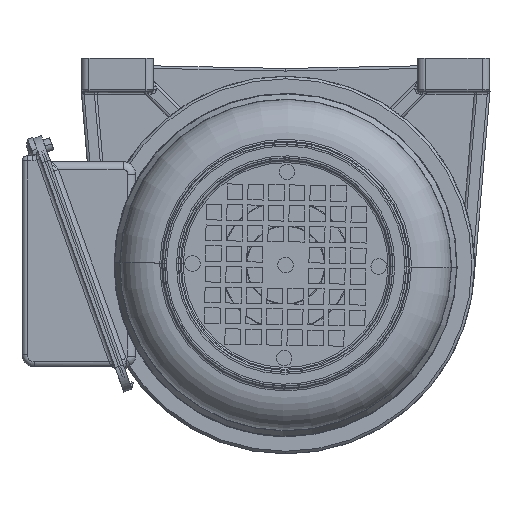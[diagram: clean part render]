
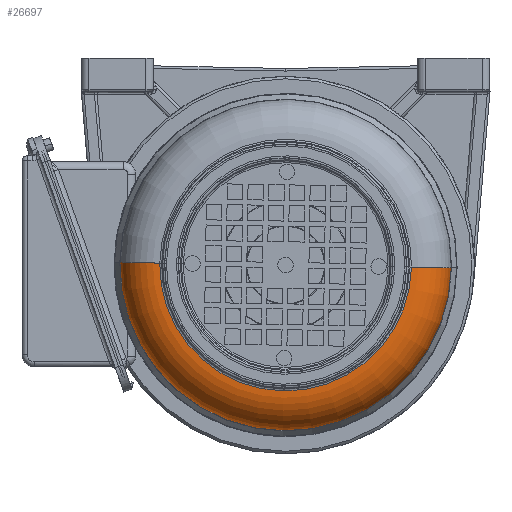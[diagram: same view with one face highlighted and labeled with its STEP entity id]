
A CAD part, front view. The second image highlights one B-rep face of the part: STEP entity #26697.
In plain terms, the highlighted toroidal (fillet/blend) face has major radius 48.673 mm and minor radius 15.331 mm.
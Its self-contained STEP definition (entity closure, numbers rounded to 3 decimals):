
#42 = DIRECTION ( 'NONE',  ( -1., 0., 0. ) ) ;
#1184 = DIRECTION ( 'NONE',  ( 0., 0., 1. ) ) ;
#1725 = CIRCLE ( 'NONE', #7220, 48.659 ) ;
#2411 = CARTESIAN_POINT ( 'NONE',  ( -15.325, 0., 48.673 ) ) ;
#2817 = EDGE_CURVE ( 'NONE', #7052, #13998, #12835, .T. ) ;
#6072 = CARTESIAN_POINT ( 'NONE',  ( 0.006, 0., 0. ) ) ;
#7052 = VERTEX_POINT ( 'NONE', #9472 ) ;
#7220 = AXIS2_PLACEMENT_3D ( 'NONE', #6072, #19170, #32267 ) ;
#8062 = ORIENTED_EDGE ( 'NONE', *, *, #19005, .F. ) ;
#8453 = VERTEX_POINT ( 'NONE', #10276 ) ;
#8948 = ORIENTED_EDGE ( 'NONE', *, *, #37241, .T. ) ;
#9023 = CARTESIAN_POINT ( 'NONE',  ( -15.325, 0., -48.673 ) ) ;
#9472 = CARTESIAN_POINT ( 'NONE',  ( 0.006, 0., -48.659 ) ) ;
#10276 = CARTESIAN_POINT ( 'NONE',  ( 0.006, 0., 48.659 ) ) ;
#11591 = AXIS2_PLACEMENT_3D ( 'NONE', #29460, #42, #13129 ) ;
#11988 = ORIENTED_EDGE ( 'NONE', *, *, #2817, .F. ) ;
#12835 = CIRCLE ( 'NONE', #36815, 15.331 ) ;
#13129 = DIRECTION ( 'NONE',  ( 0., 0., 1. ) ) ;
#13998 = VERTEX_POINT ( 'NONE', #28122 ) ;
#14906 = VERTEX_POINT ( 'NONE', #35278 ) ;
#15518 = DIRECTION ( 'NONE',  ( 0., -1., 0. ) ) ;
#16479 = AXIS2_PLACEMENT_3D ( 'NONE', #17505, #30595, #1184 ) ;
#16808 = CIRCLE ( 'NONE', #22278, 15.331 ) ;
#17505 = CARTESIAN_POINT ( 'NONE',  ( -15.325, 0., 0. ) ) ;
#19005 = EDGE_CURVE ( 'NONE', #13998, #14906, #30091, .T. ) ;
#19146 = EDGE_LOOP ( 'NONE', ( #11988, #8948, #23832, #8062 ) ) ;
#19170 = DIRECTION ( 'NONE',  ( -1., 0., 0. ) ) ;
#20718 = FACE_OUTER_BOUND ( 'NONE', #19146, .T. ) ;
#22104 = DIRECTION ( 'NONE',  ( 0., 1., 0. ) ) ;
#22278 = AXIS2_PLACEMENT_3D ( 'NONE', #2411, #15518, #28630 ) ;
#23832 = ORIENTED_EDGE ( 'NONE', *, *, #37177, .T. ) ;
#26697 = ADVANCED_FACE ( 'NONE', ( #20718 ), #34980, .T. ) ;
#28122 = CARTESIAN_POINT ( 'NONE',  ( -15., 0., -64. ) ) ;
#28630 = DIRECTION ( 'NONE',  ( 0., 0., -1. ) ) ;
#29460 = CARTESIAN_POINT ( 'NONE',  ( -15., 0., 0. ) ) ;
#30091 = CIRCLE ( 'NONE', #11591, 64. ) ;
#30595 = DIRECTION ( 'NONE',  ( -1., 0., 0. ) ) ;
#32267 = DIRECTION ( 'NONE',  ( 0., 0., 1. ) ) ;
#34980 = TOROIDAL_SURFACE ( 'NONE', #16479, 48.673, 15.331 ) ;
#35205 = DIRECTION ( 'NONE',  ( 0., 0., 1. ) ) ;
#35278 = CARTESIAN_POINT ( 'NONE',  ( -15., 0., 64. ) ) ;
#36815 = AXIS2_PLACEMENT_3D ( 'NONE', #9023, #22104, #35205 ) ;
#37177 = EDGE_CURVE ( 'NONE', #8453, #14906, #16808, .T. ) ;
#37241 = EDGE_CURVE ( 'NONE', #7052, #8453, #1725, .T. ) ;
